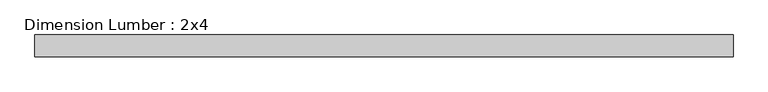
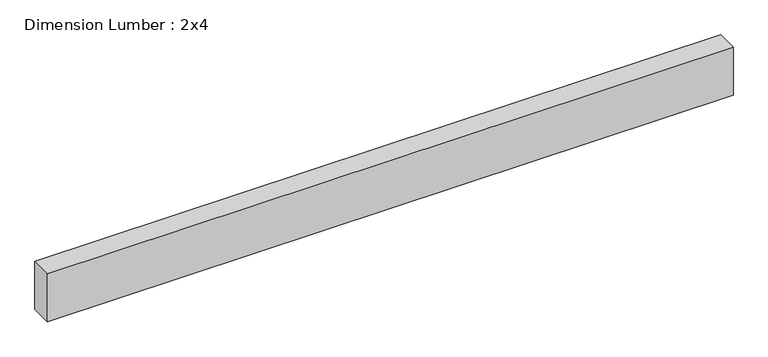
"""IFC4 building model written with IfcOpenShell, lengths in millimetres: beam geometry, Dimension Lumber : 2x4."""

from ifc_helpers import new_model, si_unit, frame, origin, place, context, project, spatial, polyline, outline, extrude, source, transform, mapped, element, save


def dimension_lumber_2x4_90506ca0(model_context):
    return source(origin(), model_context, "Body", "SweptSolid", [
        extrude(outline(polyline([(603.24, 19.05), (603.24, -19.05), (-603.26, -19.05), (-603.26, 19.05), (603.24, 19.05)])), frame((0.0, 0.0, -44.45), z_axis=(0.0, 0.0, 1.0), x_axis=(1.0, 0.0, 0.0)), (0.0, 0.0, 1.0), 88.9),
    ])


if __name__ == "__main__":
    model = new_model("IFC4")
    model_context = context("Model", 3, world=origin())
    ifc_project = project(units=[si_unit("LENGTHUNIT", "METRE", prefix="MILLI")], contexts=[model_context])
    site = spatial("IfcSite", under=ifc_project)
    building = spatial("IfcBuilding", under=site)
    placement = place(None, origin())
    dimension_lumber_2x4_shape = dimension_lumber_2x4_90506ca0(model_context)
    element("IfcBeam", 1, ObjectType="Dimension Lumber : 2x4", at=placement, inside=building, context=model_context, shape_type="MappedRepresentation", body=[
        mapped(dimension_lumber_2x4_shape, transform((0.0, 0.0, 0.0), x_axis=(1.0, 0.0, 0.0), y_axis=(0.0, 1.0, 0.0), z_axis=(0.0, 0.0, 1.0))),
    ])
    save(model, "model.ifc")
